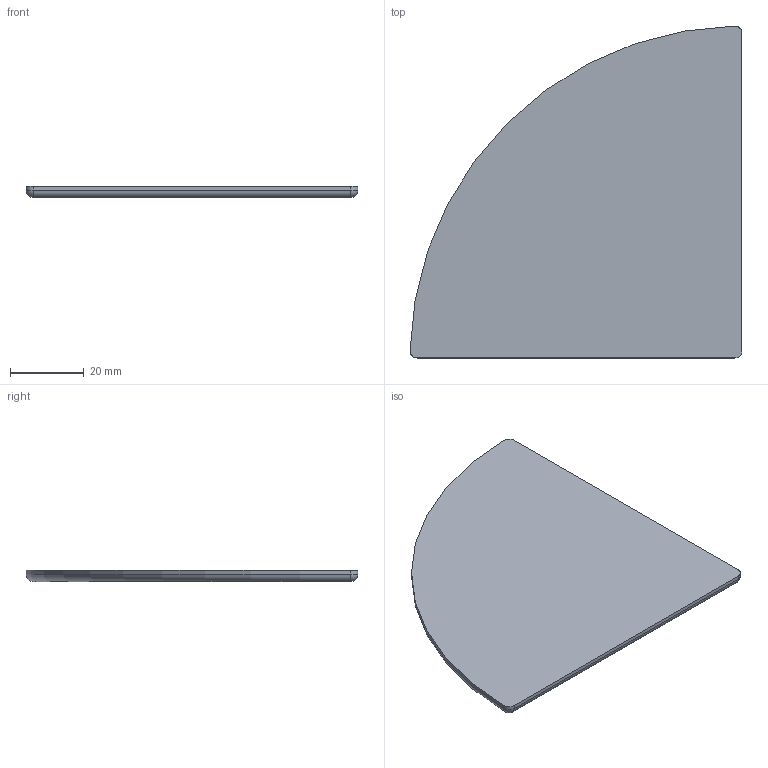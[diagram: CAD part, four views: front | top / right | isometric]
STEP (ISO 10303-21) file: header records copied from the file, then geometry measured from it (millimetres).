
FILE_DESCRIPTION (( 'STEP AP214' ), '1' );
FILE_NAME ('1.1053 Päätysuoja 90 R 90.STEP', '2025-09-03T09:10:09', ( '' ), ( '' ), 'SwSTEP 2.0', 'SolidWorks 2025', '' );
FILE_SCHEMA (( 'AUTOMOTIVE_DESIGN' ));
Length unit declared in the file: millimetre
Products named in the file (1): 1.1053 Päätysuoja 90 R 90
Bounding box: 89.98 x 89.98 x 3 mm (x, y, z)
Volume: 18785 mm3; surface area: 13475.4 mm2
Topology: 1 solids, 1 shells, 237 faces, 663 edges, 437 vertices
Faces by surface type: plane 141, bspline 85, cylinder 6, sphere 4, torus 1
Entity records: 10071 total; most frequent: CARTESIAN_POINT 4546, ORIENTED_EDGE 1318, DIRECTION 812, EDGE_CURVE 659, LINE 472, VECTOR 472, VERTEX_POINT 436, EDGE_LOOP 249
